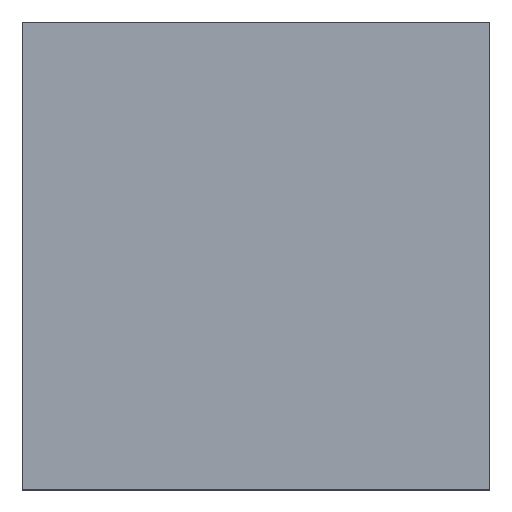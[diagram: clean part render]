
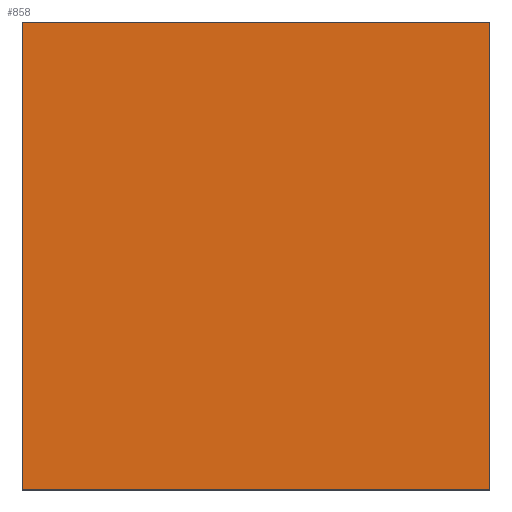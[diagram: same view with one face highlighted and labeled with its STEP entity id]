
A CAD part, top view. The second image highlights one B-rep face of the part: STEP entity #858.
In plain terms, the highlighted planar face has unit normal (0, 0, 1).
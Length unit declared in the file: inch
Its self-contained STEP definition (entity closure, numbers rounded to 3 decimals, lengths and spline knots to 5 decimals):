
#96=FACE_OUTER_BOUND('',#145,.T.);
#145=EDGE_LOOP('',(#759,#760,#761,#762));
#238=LINE('',#1503,#334);
#239=LINE('',#1506,#335);
#240=LINE('',#1508,#336);
#241=LINE('',#1509,#337);
#334=VECTOR('',#1064,0.3937);
#335=VECTOR('',#1067,0.3937);
#336=VECTOR('',#1068,0.3937);
#337=VECTOR('',#1069,0.3937);
#415=VERTEX_POINT('',#1496);
#418=VERTEX_POINT('',#1501);
#419=VERTEX_POINT('',#1505);
#420=VERTEX_POINT('',#1507);
#534=EDGE_CURVE('',#415,#418,#238,.T.);
#535=EDGE_CURVE('',#419,#415,#239,.T.);
#536=EDGE_CURVE('',#420,#418,#240,.T.);
#537=EDGE_CURVE('',#419,#420,#241,.T.);
#759=ORIENTED_EDGE('',*,*,#535,.T.);
#760=ORIENTED_EDGE('',*,*,#534,.T.);
#761=ORIENTED_EDGE('',*,*,#536,.F.);
#762=ORIENTED_EDGE('',*,*,#537,.F.);
#812=PLANE('',#912);
#858=ADVANCED_FACE('',(#96),#812,.T.);
#912=AXIS2_PLACEMENT_3D('',#1504,#1065,#1066);
#1064=DIRECTION('',(0.,1.,0.));
#1065=DIRECTION('center_axis',(0.,0.,1.));
#1066=DIRECTION('ref_axis',(1.,0.,0.));
#1067=DIRECTION('',(1.,0.,0.));
#1068=DIRECTION('',(1.,0.,0.));
#1069=DIRECTION('',(0.,1.,0.));
#1496=CARTESIAN_POINT('',(0.,0.,0.));
#1501=CARTESIAN_POINT('',(0.,0.4252,0.));
#1503=CARTESIAN_POINT('',(0.,0.,0.));
#1504=CARTESIAN_POINT('Origin',(-0.4252,0.,0.));
#1505=CARTESIAN_POINT('',(-0.4252,0.,0.));
#1506=CARTESIAN_POINT('',(-0.4252,0.,0.));
#1507=CARTESIAN_POINT('',(-0.4252,0.4252,0.));
#1508=CARTESIAN_POINT('',(-0.4252,0.4252,0.));
#1509=CARTESIAN_POINT('',(-0.4252,0.,0.));
